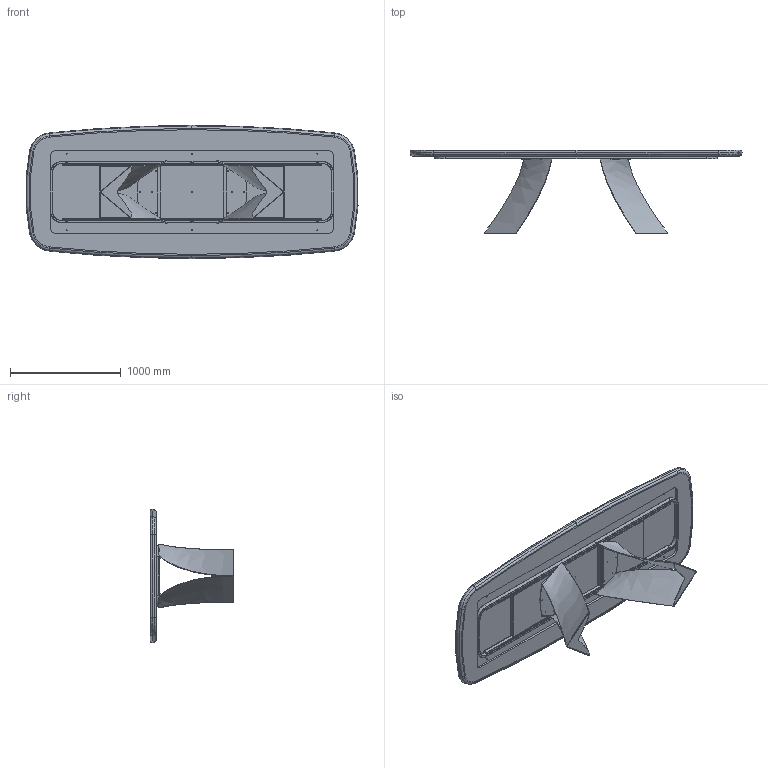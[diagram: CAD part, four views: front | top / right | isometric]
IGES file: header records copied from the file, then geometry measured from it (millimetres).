
Start section: SolidWorks IGES file using analytic representation for surfaces
Global section: file name: Y:\eforma\TECNICO\SOLIDWORKS\E-FORMA\1-TAVOLI\TWIST\TW44K_Twist_300X120_King Shaped.IGS; native system: SolidWorks 2022; preprocessor: SolidWorks 2022; author: eforma.tech; date: 240802.114936; units: millimetre
Bounding box: 2991.72 x 751.37 x 1200 mm (x, y, z)
Volume: 159270813 mm3; surface area: 19710338.9 mm2
Topology: 24 solids, 24 shells, 683 faces, 1744 edges, 1093 vertices
Faces by surface type: revolution 351, plane 266, bspline 66
